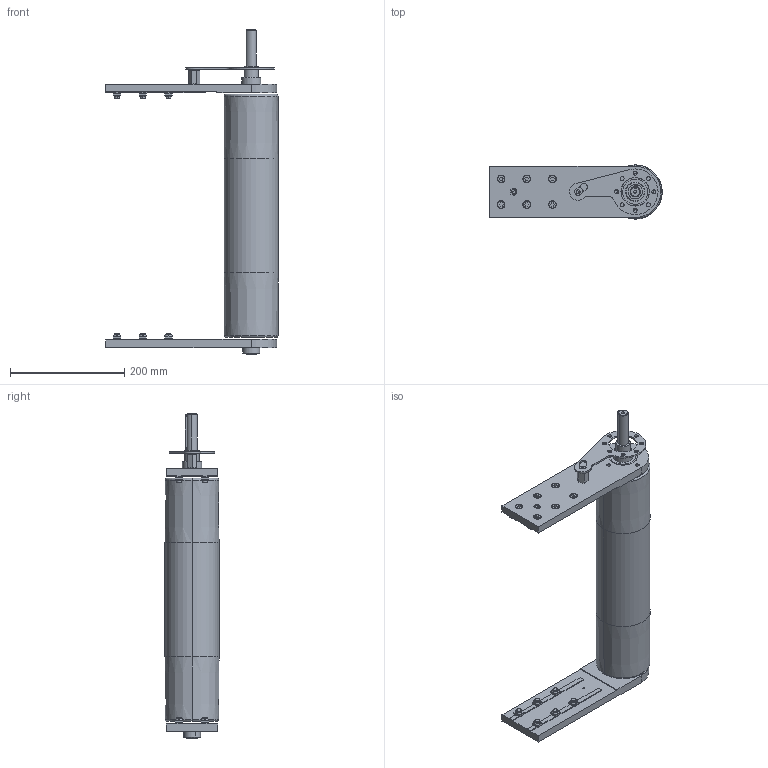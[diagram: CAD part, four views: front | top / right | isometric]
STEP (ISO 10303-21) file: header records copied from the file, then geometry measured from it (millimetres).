
FILE_DESCRIPTION (( 'STEP AP203' ), '1' );
FILE_NAME ('084.095.KD.44.400.STEP', '2015-11-12T10:00:15', ( '' ), ( '' ), 'SwSTEP 2.0', 'SolidWorks 2012', '' );
FILE_SCHEMA (( 'CONFIG_CONTROL_DESIGN' ));
Length unit declared in the file: millimetre
Products named in the file (1): 084.095.KD.44.400
Bounding box: 302.5 x 95 x 568.5 mm (x, y, z)
Surface area: 321652.8 mm2 (no closed solid volume)
Topology: 0 solids, 54 shells, 549 faces, 1675 edges, 1161 vertices
Faces by surface type: plane 306, cylinder 140, torus 52, cone 39, bspline 8, sphere 4
Entity records: 19815 total; most frequent: CARTESIAN_POINT 4780, DIRECTION 3176, ORIENTED_EDGE 2821, EDGE_CURVE 1666, AXIS2_PLACEMENT_3D 1168, VERTEX_POINT 1156, VECTOR 840, LINE 840
